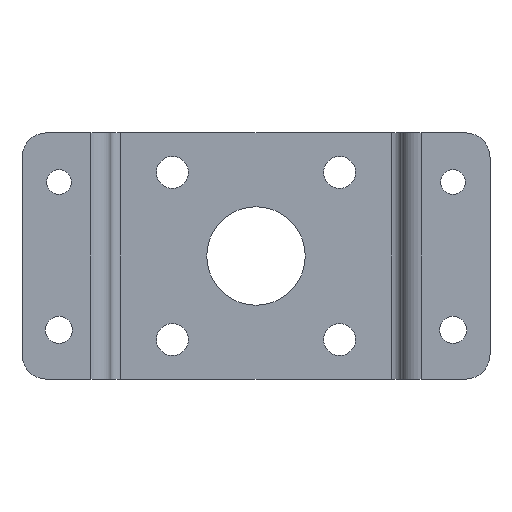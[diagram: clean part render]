
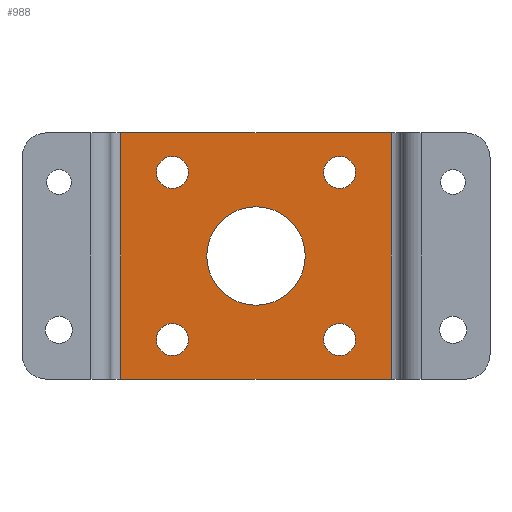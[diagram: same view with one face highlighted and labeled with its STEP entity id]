
A CAD part, front view. The second image highlights one B-rep face of the part: STEP entity #988.
In plain terms, the highlighted planar face has unit normal (0, -1, 0).
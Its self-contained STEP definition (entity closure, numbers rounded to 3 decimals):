
#15=FACE_BOUND('',#112,.T.);
#16=FACE_BOUND('',#113,.T.);
#17=FACE_BOUND('',#114,.T.);
#18=FACE_BOUND('',#115,.T.);
#19=FACE_BOUND('',#116,.T.);
#37=PLANE('',#1061);
#60=FACE_OUTER_BOUND('',#111,.T.);
#111=EDGE_LOOP('',(#668,#669,#670,#671));
#112=EDGE_LOOP('',(#672));
#113=EDGE_LOOP('',(#673));
#114=EDGE_LOOP('',(#674));
#115=EDGE_LOOP('',(#675));
#116=EDGE_LOOP('',(#676));
#183=LINE('',#1482,#272);
#185=LINE('',#1488,#274);
#186=LINE('',#1490,#275);
#187=LINE('',#1491,#276);
#272=VECTOR('',#1173,10.);
#274=VECTOR('',#1179,10.);
#275=VECTOR('',#1180,10.);
#276=VECTOR('',#1181,10.);
#363=CIRCLE('',#1062,10.);
#364=CIRCLE('',#1063,3.25);
#365=CIRCLE('',#1064,3.25);
#366=CIRCLE('',#1065,3.25);
#367=CIRCLE('',#1066,3.25);
#420=VERTEX_POINT('',#1479);
#421=VERTEX_POINT('',#1481);
#423=VERTEX_POINT('',#1487);
#424=VERTEX_POINT('',#1489);
#425=VERTEX_POINT('',#1492);
#426=VERTEX_POINT('',#1494);
#427=VERTEX_POINT('',#1496);
#428=VERTEX_POINT('',#1498);
#429=VERTEX_POINT('',#1500);
#518=EDGE_CURVE('',#420,#421,#183,.T.);
#521=EDGE_CURVE('',#423,#420,#185,.T.);
#522=EDGE_CURVE('',#424,#423,#186,.T.);
#523=EDGE_CURVE('',#424,#421,#187,.T.);
#524=EDGE_CURVE('',#425,#425,#363,.T.);
#525=EDGE_CURVE('',#426,#426,#364,.T.);
#526=EDGE_CURVE('',#427,#427,#365,.T.);
#527=EDGE_CURVE('',#428,#428,#366,.T.);
#528=EDGE_CURVE('',#429,#429,#367,.T.);
#668=ORIENTED_EDGE('',*,*,#518,.F.);
#669=ORIENTED_EDGE('',*,*,#521,.F.);
#670=ORIENTED_EDGE('',*,*,#522,.F.);
#671=ORIENTED_EDGE('',*,*,#523,.T.);
#672=ORIENTED_EDGE('',*,*,#524,.T.);
#673=ORIENTED_EDGE('',*,*,#525,.T.);
#674=ORIENTED_EDGE('',*,*,#526,.T.);
#675=ORIENTED_EDGE('',*,*,#527,.T.);
#676=ORIENTED_EDGE('',*,*,#528,.T.);
#988=ADVANCED_FACE('',(#60,#15,#16,#17,#18,#19),#37,.T.);
#1061=AXIS2_PLACEMENT_3D('',#1486,#1177,#1178);
#1062=AXIS2_PLACEMENT_3D('',#1493,#1182,#1183);
#1063=AXIS2_PLACEMENT_3D('',#1495,#1184,#1185);
#1064=AXIS2_PLACEMENT_3D('',#1497,#1186,#1187);
#1065=AXIS2_PLACEMENT_3D('',#1499,#1188,#1189);
#1066=AXIS2_PLACEMENT_3D('',#1501,#1190,#1191);
#1173=DIRECTION('',(0.,0.,-1.));
#1177=DIRECTION('center_axis',(0.,-1.,0.));
#1178=DIRECTION('ref_axis',(0.,0.,-1.));
#1179=DIRECTION('',(1.,0.,0.));
#1180=DIRECTION('',(0.,0.,1.));
#1181=DIRECTION('',(1.,0.,0.));
#1182=DIRECTION('center_axis',(0.,1.,0.));
#1183=DIRECTION('ref_axis',(-1.,0.,0.));
#1184=DIRECTION('center_axis',(0.,1.,0.));
#1185=DIRECTION('ref_axis',(-1.,0.,0.));
#1186=DIRECTION('center_axis',(0.,1.,0.));
#1187=DIRECTION('ref_axis',(-1.,0.,0.));
#1188=DIRECTION('center_axis',(0.,1.,0.));
#1189=DIRECTION('ref_axis',(-1.,0.,0.));
#1190=DIRECTION('center_axis',(0.,1.,0.));
#1191=DIRECTION('ref_axis',(-1.,0.,0.));
#1479=CARTESIAN_POINT('',(27.5,-12.,25.));
#1481=CARTESIAN_POINT('',(27.5,-12.,-25.));
#1482=CARTESIAN_POINT('',(27.5,-12.,0.));
#1486=CARTESIAN_POINT('Origin',(29.5,-12.,0.));
#1487=CARTESIAN_POINT('',(-27.5,-12.,25.));
#1488=CARTESIAN_POINT('',(-29.5,-12.,25.));
#1489=CARTESIAN_POINT('',(-27.5,-12.,-25.));
#1490=CARTESIAN_POINT('',(-27.5,-12.,0.));
#1491=CARTESIAN_POINT('',(29.5,-12.,-25.));
#1492=CARTESIAN_POINT('',(10.,-12.,0.));
#1493=CARTESIAN_POINT('Origin',(0.,-12.,0.));
#1494=CARTESIAN_POINT('',(-13.721,-12.,16.971));
#1495=CARTESIAN_POINT('Origin',(-16.971,-12.,16.971));
#1496=CARTESIAN_POINT('',(-13.721,-12.,-16.971));
#1497=CARTESIAN_POINT('Origin',(-16.971,-12.,-16.971));
#1498=CARTESIAN_POINT('',(20.221,-12.,-16.971));
#1499=CARTESIAN_POINT('Origin',(16.971,-12.,-16.971));
#1500=CARTESIAN_POINT('',(20.221,-12.,16.971));
#1501=CARTESIAN_POINT('Origin',(16.971,-12.,16.971));
